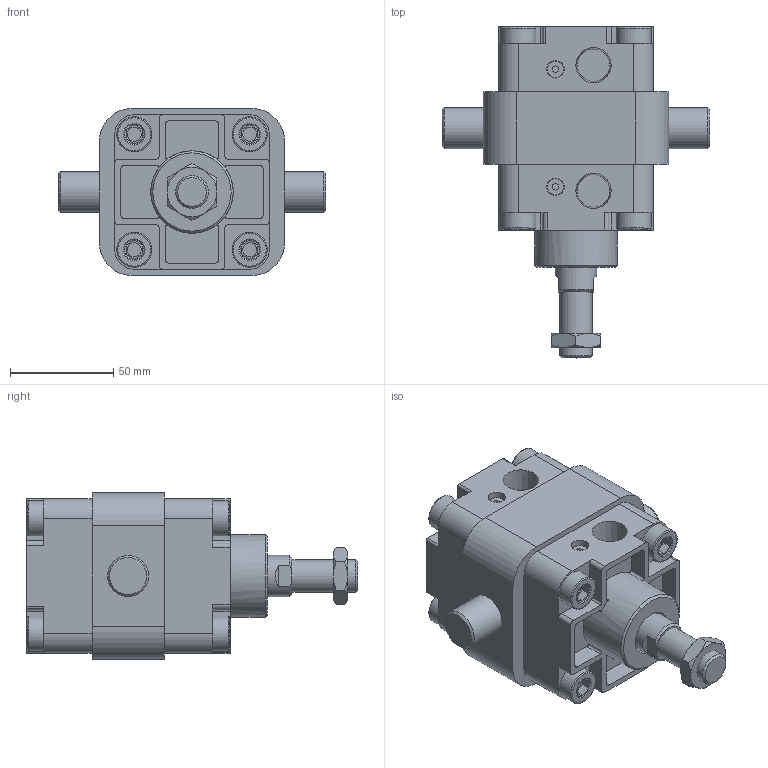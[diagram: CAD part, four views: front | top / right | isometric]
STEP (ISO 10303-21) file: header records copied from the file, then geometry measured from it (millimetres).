
FILE_DESCRIPTION(/* description */ ('Unknown'),/* implementation_level */ '2;1');
FILE_NAME(/* name */ 'WA63-0-TC',/* time_stamp */ '2026-07-17T16:54:15+08:00',/* author */ ('Unknown'),/* organization */ ('Unknown'),/* preprocessor_version */ 'ST-DEVELOPER v16.7',/* originating_system */ 'DEX',/* authorisation */ $);
FILE_SCHEMA (('CONFIG_CONTROL_DESIGN'));
Length unit declared in the file: millimetre
Products named in the file (8): WA63-0-TC; WA63_後; WA63_心軸活; WA63_鋁; WA63_前; WA63_TｴU､毖5; M16-1.5P-8_螺; WA63_TC
Assembly tree (10 placements, depth 2):
  WA63-0-TC
    WA63_後
    WA63_心軸活
    WA63_鋁
    WA63_前
    WA63_TｴU､毖5  x4
    M16-1.5P-8_螺
    WA63_TC
Bounding box: 130 x 161 x 81 mm (x, y, z)
Volume: 586532.8 mm3; surface area: 145352.4 mm2
Topology: 10 solids, 10 shells, 383 faces, 927 edges, 623 vertices
Faces by surface type: plane 213, cylinder 131, cone 31, torus 8
Full cylindrical faces by diameter (mm): 6.8 x12, 8 x6, 8.5 x2, 12 x8, 12.5 x8, 14.5 x1, 15.806 x2, 16 x1, 17 x8, 20 x4, 40 x1, 62.5 x1, 63 x3, 68 x1, 68.5 x1
Entity records: 10091 total; most frequent: CARTESIAN_POINT 1463, DIRECTION 1438, ORIENTED_EDGE 1258, EDGE_CURVE 629, AXIS2_PLACEMENT_3D 548, VERTEX_POINT 445, EDGE_LOOP 390, FACE_BOUND 390
